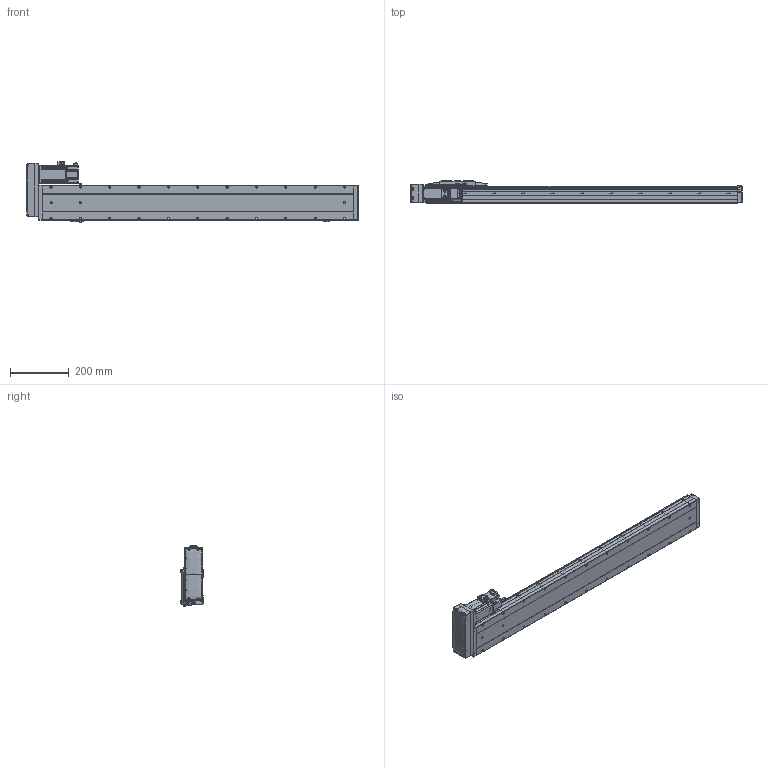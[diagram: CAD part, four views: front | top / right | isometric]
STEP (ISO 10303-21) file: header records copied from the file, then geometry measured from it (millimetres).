
FILE_DESCRIPTION (( 'STEP AP214' ), '1' );
FILE_NAME ('CTH12-L10-S850-BL-C40（简）.STEP', '2023-02-06T04:51:45', ( '' ), ( '' ), 'SwSTEP 2.0', 'SolidWorks 2018', '' );
FILE_SCHEMA (( 'AUTOMOTIVE_DESIGN' ));
Length unit declared in the file: millimetre
Products named in the file (24): 400W萇儂; CTH400W假蚾啣; 内六角圆柱头螺钉M3-1; 嫖萇羲壽郪磁1; CTH12侧装连接板（标准）简; CTH12賑怢ㄗ潠ㄘ; PM-Y45; 湮賑怢  裔赽-1(CTH12)賑怢; CTH12-BL_body_4; CTH12底座-L1061简（850行程）; 内六角圆柱头螺钉M3-2; CTH12-L10-S850-BL-C40（简）; CTH12賑怢郪磁; CTH12覜茼え; CTH12耜蚾裔; CTH12; CTH嫖萇羲壽假蚾啣; 蚐郲; M5蹟隊; CTH12_body_3; 嫖萇羲壽郪磁2; 内六角圆柱头螺钉M3; CTH400W垫板（3个厚）; hex nuts, style 1-grades ab gb_GB_FASTENER_NUT_SNAB1 M3-N
Assembly tree (44 placements, depth 4):
  CTH12-L10-S850-BL-C40（简）
    CTH12底座-L1061简（850行程）
    蚐郲  x2
    CTH12_body_3
    CTH12-BL_body_4
    CTH12侧装连接板（标准）简
    CTH12耜蚾裔
    CTH12賑怢郪磁
      CTH12
        湮賑怢  裔赽-1(CTH12)賑怢
        CTH12賑怢ㄗ潠ㄘ
    CTH12覜茼え
    CTH400W垫板（3个厚）
    400W萇儂
    内六角圆柱头螺钉M3  x6
    M5蹟隊  x4
    嫖萇羲壽郪磁1
      CTH嫖萇羲壽假蚾啣
      PM-Y45
      内六角圆柱头螺钉M3-2  x2
      内六角圆柱头螺钉M3-1  x2
      hex nuts, style 1-grades ab gb_GB_FASTENER_NUT_SNAB1 M3-N  x2
    嫖萇羲壽郪磁2  x2
      CTH嫖萇羲壽假蚾啣
      PM-Y45
      内六角圆柱头螺钉M3-1
      内六角圆柱头螺钉M3-2
      hex nuts, style 1-grades ab gb_GB_FASTENER_NUT_SNAB1 M3-N
    CTH400W假蚾啣
Bounding box: 1131.5 x 76 x 205.26 mm (x, y, z)
Volume: 7580077.1 mm3; surface area: 751676.7 mm2
Topology: 47 solids, 48 shells, 3305 faces, 8254 edges, 5171 vertices
Faces by surface type: plane 1594, cylinder 944, cone 451, bspline 188, torus 124, sphere 4
Entity records: 109058 total; most frequent: CARTESIAN_POINT 40450, ORIENTED_EDGE 13610, DIRECTION 12887, EDGE_CURVE 6805, AXIS2_PLACEMENT_3D 4520, VERTEX_POINT 4275, VECTOR 3847, LINE 3847
